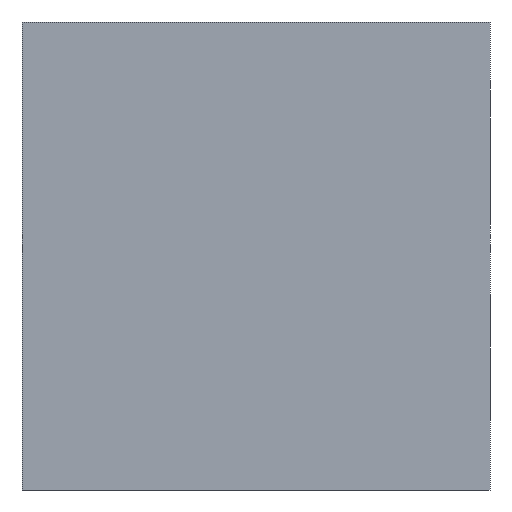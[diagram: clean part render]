
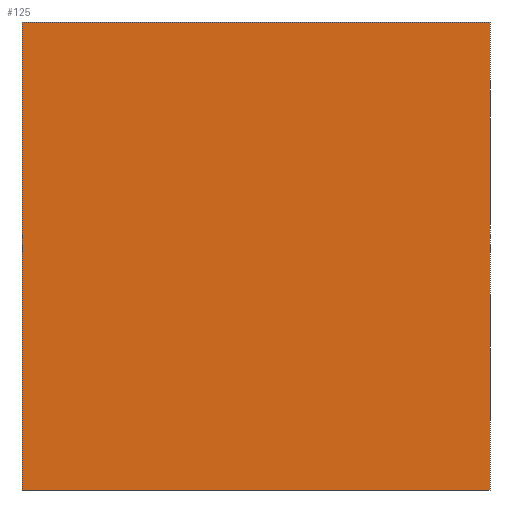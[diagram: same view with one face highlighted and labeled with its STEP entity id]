
A CAD part, left-side view. The second image highlights one B-rep face of the part: STEP entity #125.
In plain terms, the highlighted planar face has unit normal (-1, 0, 0).
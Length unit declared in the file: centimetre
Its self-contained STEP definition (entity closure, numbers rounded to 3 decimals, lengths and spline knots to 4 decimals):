
#5 = CARTESIAN_POINT ( 'NONE',  ( 0., 1000., 0. ) ) ;
#28 = EDGE_CURVE ( 'NONE', #318, #567, #300, .T. ) ;
#43 = CARTESIAN_POINT ( 'NONE',  ( 0., 1000., 0. ) ) ;
#61 = VECTOR ( 'NONE', #605, 100. ) ;
#87 = DIRECTION ( 'NONE',  ( 0., 0., -1. ) ) ;
#91 = EDGE_CURVE ( 'NONE', #229, #318, #515, .T. ) ;
#93 = ORIENTED_EDGE ( 'NONE', *, *, #207, .T. ) ;
#102 = DIRECTION ( 'NONE',  ( 1., 0., 0. ) ) ;
#125 = ADVANCED_FACE ( 'NONE', ( #277 ), #564, .F. ) ;
#164 = VECTOR ( 'NONE', #423, 100. ) ;
#180 = EDGE_LOOP ( 'NONE', ( #543, #280, #407, #93 ) ) ;
#207 = EDGE_CURVE ( 'NONE', #229, #550, #447, .T. ) ;
#220 = CARTESIAN_POINT ( 'NONE',  ( 0., 1000., 1000. ) ) ;
#229 = VERTEX_POINT ( 'NONE', #298 ) ;
#277 = FACE_OUTER_BOUND ( 'NONE', #180, .T. ) ;
#280 = ORIENTED_EDGE ( 'NONE', *, *, #28, .F. ) ;
#298 = CARTESIAN_POINT ( 'NONE',  ( 0., 1000., 1000. ) ) ;
#300 = LINE ( 'NONE', #307, #324 ) ;
#307 = CARTESIAN_POINT ( 'NONE',  ( 0., 0., 1000. ) ) ;
#314 = CARTESIAN_POINT ( 'NONE',  ( 0., 1000., 1000. ) ) ;
#318 = VERTEX_POINT ( 'NONE', #422 ) ;
#324 = VECTOR ( 'NONE', #87, 100. ) ;
#390 = VECTOR ( 'NONE', #537, 100. ) ;
#407 = ORIENTED_EDGE ( 'NONE', *, *, #91, .F. ) ;
#416 = CARTESIAN_POINT ( 'NONE',  ( 0., 0., 0. ) ) ;
#422 = CARTESIAN_POINT ( 'NONE',  ( 0., 0., 1000. ) ) ;
#423 = DIRECTION ( 'NONE',  ( 0., -1., 0. ) ) ;
#447 = LINE ( 'NONE', #220, #390 ) ;
#450 = AXIS2_PLACEMENT_3D ( 'NONE', #505, #102, #602 ) ;
#505 = CARTESIAN_POINT ( 'NONE',  ( 0., 1000., 1000. ) ) ;
#515 = LINE ( 'NONE', #314, #61 ) ;
#537 = DIRECTION ( 'NONE',  ( 0., 0., -1. ) ) ;
#543 = ORIENTED_EDGE ( 'NONE', *, *, #590, .T. ) ;
#550 = VERTEX_POINT ( 'NONE', #5 ) ;
#564 = PLANE ( 'NONE',  #450 ) ;
#565 = LINE ( 'NONE', #43, #164 ) ;
#567 = VERTEX_POINT ( 'NONE', #416 ) ;
#590 = EDGE_CURVE ( 'NONE', #550, #567, #565, .T. ) ;
#602 = DIRECTION ( 'NONE',  ( 0., 0., -1. ) ) ;
#605 = DIRECTION ( 'NONE',  ( 0., -1., 0. ) ) ;
